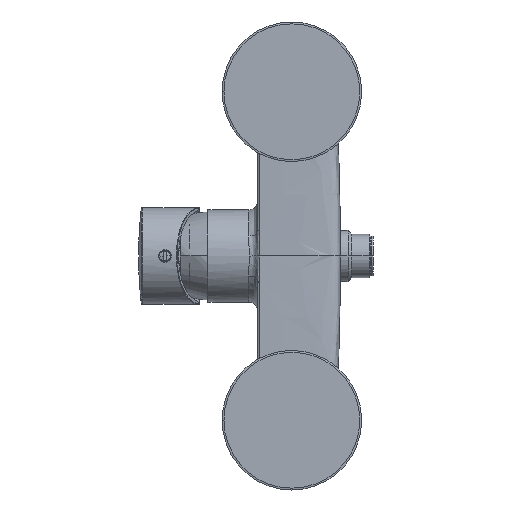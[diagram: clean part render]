
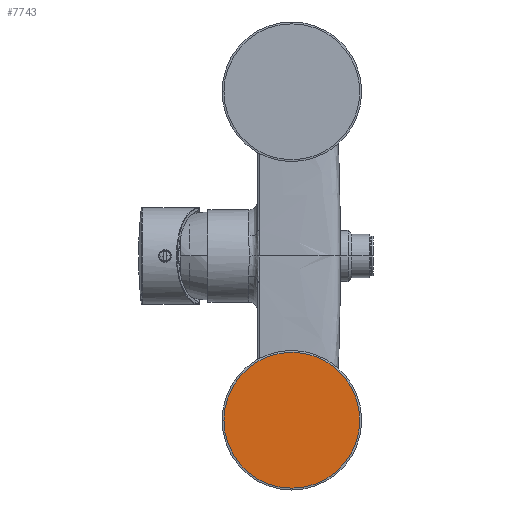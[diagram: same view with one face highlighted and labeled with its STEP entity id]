
A CAD part, left-side view. The second image highlights one B-rep face of the part: STEP entity #7743.
In plain terms, the highlighted planar face has unit normal (-1, 0, 0).
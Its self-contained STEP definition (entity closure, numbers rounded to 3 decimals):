
#29=CARTESIAN_POINT('',(-82.02,-39.1,-76.5));
#30=DIRECTION('',(1.,0.,0.));
#31=DIRECTION('',(0.,-1.,0.));
#32=AXIS2_PLACEMENT_3D('',#29,#30,#31);
#34=CARTESIAN_POINT('',(-82.02,-39.1,-76.5));
#35=DIRECTION('',(1.,0.,0.));
#36=DIRECTION('',(0.,1.,0.));
#37=AXIS2_PLACEMENT_3D('',#34,#35,#36);
#7477=CARTESIAN_POINT('',(-82.02,-70.749,-76.5));
#7478=CARTESIAN_POINT('',(-82.02,-7.451,-76.5));
#7479=VERTEX_POINT('',#7477);
#7480=VERTEX_POINT('',#7478);
#7733=CARTESIAN_POINT('',(-82.02,-39.1,76.5));
#7734=DIRECTION('',(-1.,0.,0.));
#7735=DIRECTION('',(0.,1.,0.));
#7736=AXIS2_PLACEMENT_3D('',#7733,#7734,#7735);
#7737=PLANE('',#7736);
#7738=ORIENTED_EDGE('',*,*,#7723,.T.);
#7740=ORIENTED_EDGE('',*,*,#7739,.T.);
#7741=EDGE_LOOP('',(#7738,#7740));
#7742=FACE_OUTER_BOUND('',#7741,.F.);
#7743=ADVANCED_FACE('',(#7742),#7737,.T.);
#33=CIRCLE('',#32,31.649);
#38=CIRCLE('',#37,31.649);
#7723=EDGE_CURVE('',#7479,#7480,#33,.T.);
#7739=EDGE_CURVE('',#7480,#7479,#38,.T.);
